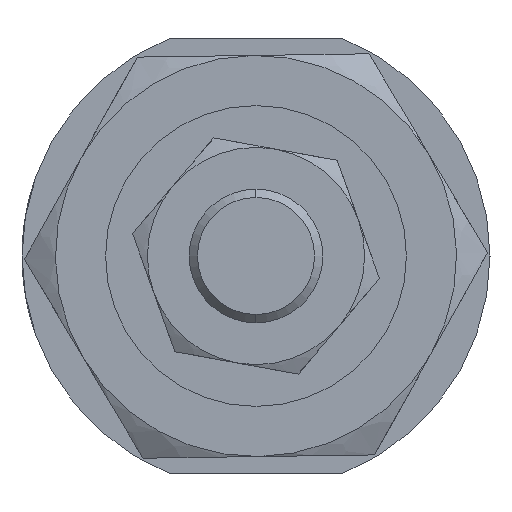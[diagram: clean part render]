
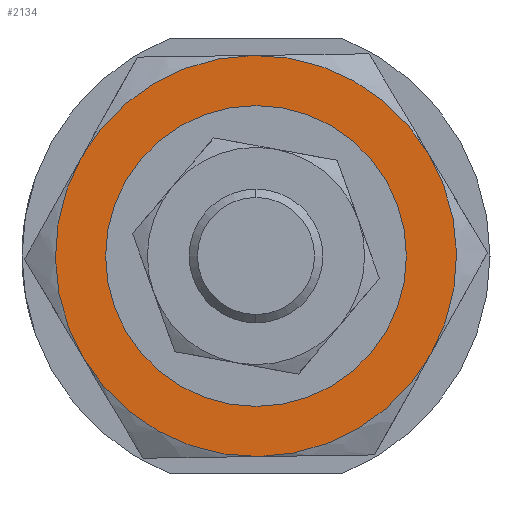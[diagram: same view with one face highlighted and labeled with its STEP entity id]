
A CAD part, left-side view. The second image highlights one B-rep face of the part: STEP entity #2134.
In plain terms, the highlighted planar face has unit normal (-1, 0, 0) as drawn and (0, 0, -1) by its records, which use the part's own axes.
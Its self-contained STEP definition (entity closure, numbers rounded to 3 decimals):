
#11 = CARTESIAN_POINT ( 'NONE',  ( 0., 0., -4. ) ) ;
#25 = CARTESIAN_POINT ( 'NONE',  ( 0., 0., -4. ) ) ;
#81 = DIRECTION ( 'NONE',  ( 1., 0., 0. ) ) ;
#82 = DIRECTION ( 'NONE',  ( 1., 0., 0. ) ) ;
#87 = EDGE_CURVE ( 'NONE', #1394, #1277, #2844, .T. ) ;
#107 = CARTESIAN_POINT ( 'NONE',  ( -12., 0., -4. ) ) ;
#168 = CIRCLE ( 'NONE', #1866, 12. ) ;
#231 = VERTEX_POINT ( 'NONE', #872 ) ;
#350 = EDGE_CURVE ( 'NONE', #231, #2047, #2681, .T. ) ;
#362 = ORIENTED_EDGE ( 'NONE', *, *, #87, .F. ) ;
#410 = AXIS2_PLACEMENT_3D ( 'NONE', #2678, #2666, #636 ) ;
#472 = EDGE_CURVE ( 'NONE', #1781, #1659, #724, .T. ) ;
#504 = AXIS2_PLACEMENT_3D ( 'NONE', #1702, #1472, #554 ) ;
#545 = DIRECTION ( 'NONE',  ( 0., 0., 1. ) ) ;
#554 = DIRECTION ( 'NONE',  ( 1., 0., 0. ) ) ;
#575 = ORIENTED_EDGE ( 'NONE', *, *, #472, .F. ) ;
#624 = EDGE_CURVE ( 'NONE', #2047, #1394, #785, .T. ) ;
#633 = DIRECTION ( 'NONE',  ( 1., 0., 0. ) ) ;
#636 = DIRECTION ( 'NONE',  ( 1., 0., 0. ) ) ;
#662 = DIRECTION ( 'NONE',  ( 0., 0., 1. ) ) ;
#669 = EDGE_CURVE ( 'NONE', #1277, #1781, #2837, .T. ) ;
#684 = FACE_BOUND ( 'NONE', #1578, .T. ) ;
#685 = DIRECTION ( 'NONE',  ( 1., 0., 0. ) ) ;
#701 = PLANE ( 'NONE',  #2103 ) ;
#711 = DIRECTION ( 'NONE',  ( 1., 0., 0. ) ) ;
#724 = CIRCLE ( 'NONE', #965, 12. ) ;
#726 = ORIENTED_EDGE ( 'NONE', *, *, #2406, .T. ) ;
#735 = ORIENTED_EDGE ( 'NONE', *, *, #669, .F. ) ;
#785 = CIRCLE ( 'NONE', #504, 12. ) ;
#872 = CARTESIAN_POINT ( 'NONE',  ( 6., -10.392, -4. ) ) ;
#881 = VERTEX_POINT ( 'NONE', #2905 ) ;
#884 = CARTESIAN_POINT ( 'NONE',  ( 0., 0., -4. ) ) ;
#931 = EDGE_CURVE ( 'NONE', #881, #2480, #2255, .T. ) ;
#934 = DIRECTION ( 'NONE',  ( 0., 0., 1. ) ) ;
#939 = CARTESIAN_POINT ( 'NONE',  ( 0., 0., -4. ) ) ;
#965 = AXIS2_PLACEMENT_3D ( 'NONE', #25, #934, #633 ) ;
#1166 = AXIS2_PLACEMENT_3D ( 'NONE', #2578, #545, #2102 ) ;
#1233 = DIRECTION ( 'NONE',  ( 0., 0., 1. ) ) ;
#1277 = VERTEX_POINT ( 'NONE', #1788 ) ;
#1335 = CARTESIAN_POINT ( 'NONE',  ( 6., 10.392, -4. ) ) ;
#1394 = VERTEX_POINT ( 'NONE', #1335 ) ;
#1398 = DIRECTION ( 'NONE',  ( 0., 0., 1. ) ) ;
#1457 = ORIENTED_EDGE ( 'NONE', *, *, #2551, .F. ) ;
#1472 = DIRECTION ( 'NONE',  ( 0., 0., 1. ) ) ;
#1578 = EDGE_LOOP ( 'NONE', ( #726, #2315 ) ) ;
#1590 = DIRECTION ( 'NONE',  ( 0., 0., 1. ) ) ;
#1634 = ORIENTED_EDGE ( 'NONE', *, *, #624, .F. ) ;
#1659 = VERTEX_POINT ( 'NONE', #2354 ) ;
#1702 = CARTESIAN_POINT ( 'NONE',  ( 0., 0., -4. ) ) ;
#1773 = AXIS2_PLACEMENT_3D ( 'NONE', #1881, #2772, #82 ) ;
#1781 = VERTEX_POINT ( 'NONE', #107 ) ;
#1788 = CARTESIAN_POINT ( 'NONE',  ( -6., 10.392, -4. ) ) ;
#1829 = CIRCLE ( 'NONE', #1773, 8.25 ) ;
#1840 = ORIENTED_EDGE ( 'NONE', *, *, #350, .F. ) ;
#1866 = AXIS2_PLACEMENT_3D ( 'NONE', #884, #662, #2449 ) ;
#1881 = CARTESIAN_POINT ( 'NONE',  ( 0., 0., -4. ) ) ;
#1934 = FACE_OUTER_BOUND ( 'NONE', #2403, .T. ) ;
#1969 = AXIS2_PLACEMENT_3D ( 'NONE', #2796, #1233, #81 ) ;
#2047 = VERTEX_POINT ( 'NONE', #2238 ) ;
#2102 = DIRECTION ( 'NONE',  ( 1., 0., 0. ) ) ;
#2103 = AXIS2_PLACEMENT_3D ( 'NONE', #11, #1590, #685 ) ;
#2134 = ADVANCED_FACE ( 'NONE', ( #684, #1934 ), #701, .F. ) ;
#2238 = CARTESIAN_POINT ( 'NONE',  ( 12., 0., -4. ) ) ;
#2255 = CIRCLE ( 'NONE', #1969, 8.25 ) ;
#2315 = ORIENTED_EDGE ( 'NONE', *, *, #931, .T. ) ;
#2354 = CARTESIAN_POINT ( 'NONE',  ( -6., -10.392, -4. ) ) ;
#2403 = EDGE_LOOP ( 'NONE', ( #1634, #1840, #1457, #575, #735, #362 ) ) ;
#2406 = EDGE_CURVE ( 'NONE', #2480, #881, #1829, .T. ) ;
#2449 = DIRECTION ( 'NONE',  ( 1., 0., 0. ) ) ;
#2480 = VERTEX_POINT ( 'NONE', #2607 ) ;
#2551 = EDGE_CURVE ( 'NONE', #1659, #231, #168, .T. ) ;
#2563 = AXIS2_PLACEMENT_3D ( 'NONE', #939, #1398, #711 ) ;
#2578 = CARTESIAN_POINT ( 'NONE',  ( 0., 0., -4. ) ) ;
#2607 = CARTESIAN_POINT ( 'NONE',  ( 8.25, 0., -4. ) ) ;
#2666 = DIRECTION ( 'NONE',  ( 0., 0., 1. ) ) ;
#2678 = CARTESIAN_POINT ( 'NONE',  ( 0., 0., -4. ) ) ;
#2681 = CIRCLE ( 'NONE', #410, 12. ) ;
#2772 = DIRECTION ( 'NONE',  ( 0., 0., 1. ) ) ;
#2796 = CARTESIAN_POINT ( 'NONE',  ( 0., 0., -4. ) ) ;
#2837 = CIRCLE ( 'NONE', #1166, 12. ) ;
#2844 = CIRCLE ( 'NONE', #2563, 12. ) ;
#2905 = CARTESIAN_POINT ( 'NONE',  ( -8.25, 0., -4. ) ) ;
